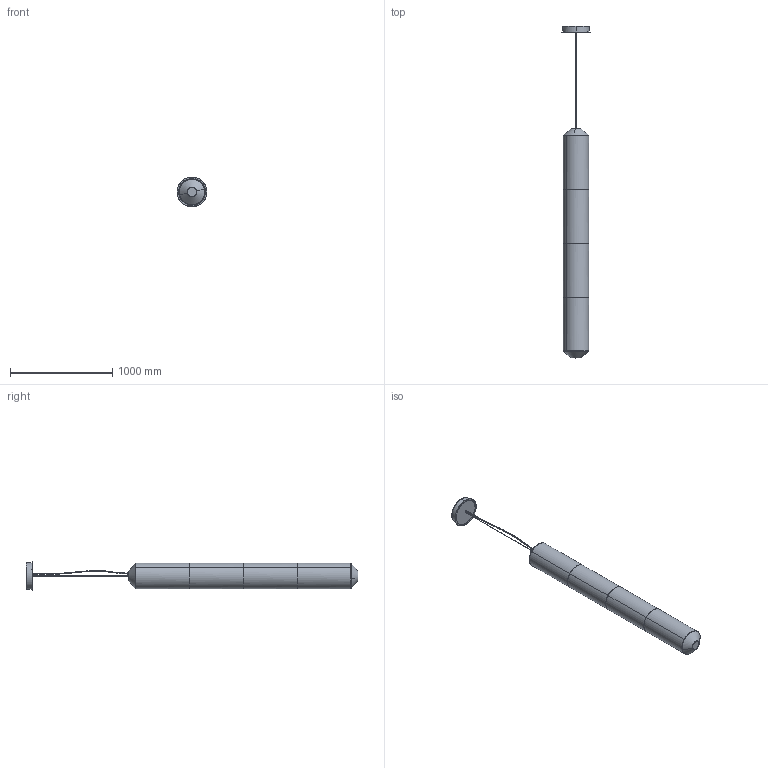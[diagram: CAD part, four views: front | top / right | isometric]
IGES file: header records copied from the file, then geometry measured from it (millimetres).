
Start section: SolidWorks IGES file using analytic representation for surfaces
Global section: file name: C:\SANTACOLE_PDM\Proyectos Catálogo\PROD-P16-018 -- TEKIO\6_Técnico comercial\3D\Tekio Vertical\Tekio Vertical P4\Tekio Vertical P4.IGS; native system: SolidWorks 2019; preprocessor: SolidWorks 2019; author: aina.morell; date: 200406.182643; units: millimetre
Bounding box: 290 x 3243.01 x 290 mm (x, y, z)
Surface area: 3938806.7 mm2 (no closed solid volume)
Topology: 0 solids, 0 shells, 196 faces, 4555 edges, 4555 vertices
Faces by surface type: bspline 192, revolution 4
